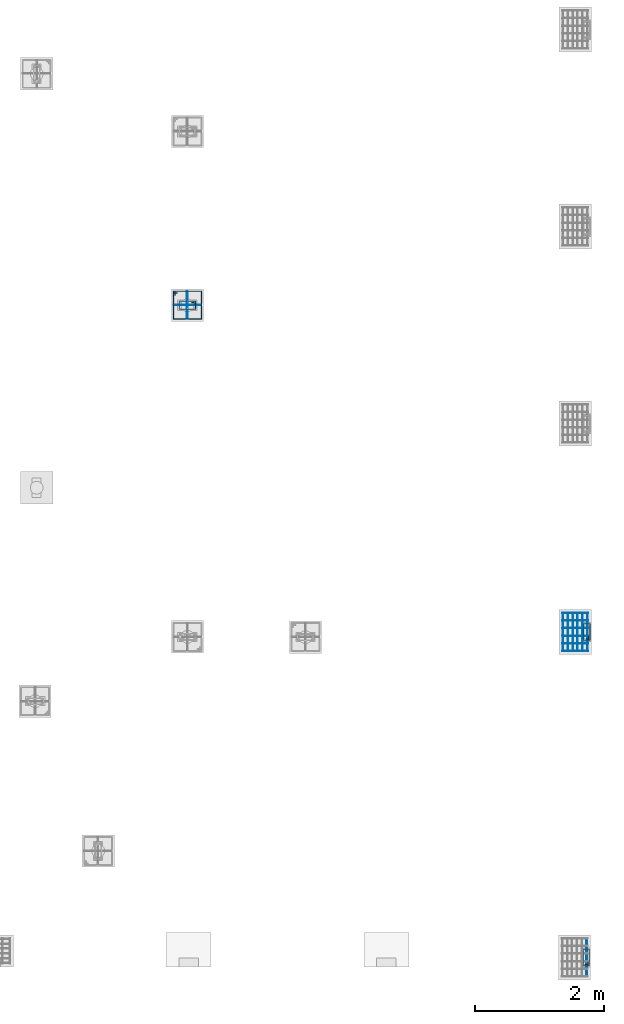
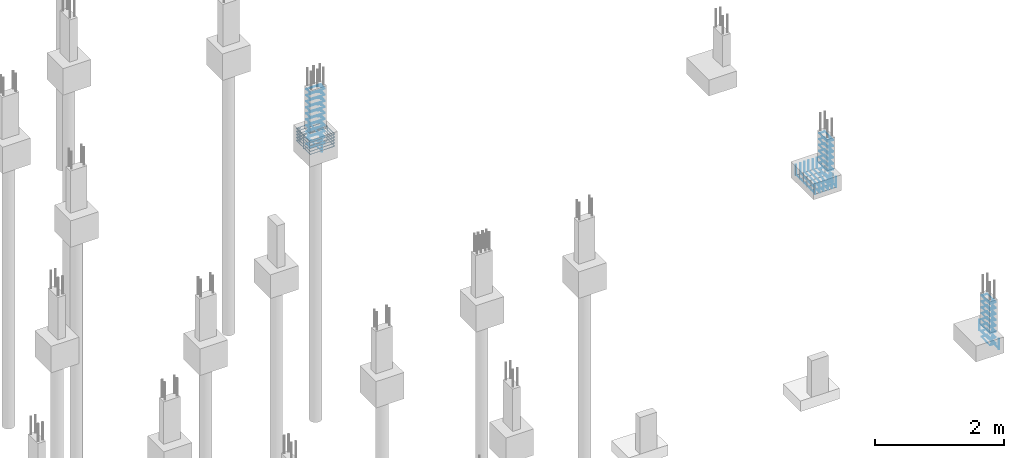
# One storey, part 95 of 119: 46 reinforcing bars.
"""IFC4 building model written with IfcOpenShell, lengths in centimetres."""

from ifc_helpers import new_model, entity, si_unit, derived_unit, frame, origin_with_axes, place, context, project, spatial, source, transform, mapped, element, save


model = new_model("IFC4")

# Units and contexts
model_context = context("Model", 3, precision=1e-05, world=origin_with_axes(), identifier="Body")
ifc_project = project(units=[si_unit("LENGTHUNIT", "METRE", prefix="CENTI"), si_unit("VOLUMEUNIT", "CUBIC_METRE"), si_unit("AREAUNIT", "SQUARE_METRE"), si_unit("POWERUNIT", "WATT"), si_unit("LUMINOUSFLUXUNIT", "LUMEN"), si_unit("ELECTRICCURRENTUNIT", "AMPERE"), si_unit("PRESSUREUNIT", "PASCAL", prefix="KILO"), si_unit("MASSUNIT", "GRAM", prefix="KILO"), si_unit("PLANEANGLEUNIT", "RADIAN"), derived_unit("VOLUMETRICFLOWRATEUNIT", [(si_unit("LENGTHUNIT", "METRE"), 3), (si_unit("TIMEUNIT", "SECOND"), -1)])], contexts=[model_context])

# Site, building, storey
site_placement = place(None, frame((-4000.0, 0.0, 0.0), z_axis=(0.0, 0.0, 1.0), x_axis=(1.0, 0.0, 0.0)))
site = spatial("IfcSite", under=ifc_project, at=site_placement, Name="PADRÃO")
building_placement = place(site_placement, frame((0.0, 0.0, -14.0)))
building = spatial("IfcBuilding", under=site, at=building_placement, Name="CRECHE PRÉ-ESCOLA TIPO 2")
storey_placement = place(building_placement, origin_with_axes())
storey = spatial("IfcBuildingStorey", under=building, at=storey_placement, Name="FUNDAÇÃO", CompositionType="ELEMENT", Elevation=-14.0)

# Reinforcing bars
shared_shape_1 = source(origin_with_axes(), model_context, "Body", "AdvancedSweptSolid", [
    entity("IfcSweptDiskSolid", entity("IfcCompositeCurve", [entity("IfcCompositeCurveSegment", "CONTINUOUS", True, entity("IfcPolyline", [entity("IfcCartesianPoint", [4.25, 21.75, 0.0]), entity("IfcCartesianPoint", [4.25, 27.75, 0.0])])), entity("IfcCompositeCurveSegment", "CONTINUOUS", True, entity("IfcPolyline", [entity("IfcCartesianPoint", [4.25, 27.75, 0.0]), entity("IfcCartesianPoint", [2.25, 27.75, 0.0])])), entity("IfcCompositeCurveSegment", "CONTINUOUS", True, entity("IfcPolyline", [entity("IfcCartesianPoint", [2.25, 27.75, 0.0]), entity("IfcCartesianPoint", [2.25, 2.25, 0.0])])), entity("IfcCompositeCurveSegment", "CONTINUOUS", True, entity("IfcPolyline", [entity("IfcCartesianPoint", [2.25, 2.25, 0.0]), entity("IfcCartesianPoint", [14.75, 2.25, 0.0])])), entity("IfcCompositeCurveSegment", "CONTINUOUS", True, entity("IfcPolyline", [entity("IfcCartesianPoint", [14.75, 2.25, 0.0]), entity("IfcCartesianPoint", [14.75, 27.75, -0.5])])), entity("IfcCompositeCurveSegment", "CONTINUOUS", True, entity("IfcPolyline", [entity("IfcCartesianPoint", [14.75, 27.75, -0.5]), entity("IfcCartesianPoint", [2.25, 27.75, -0.5])])), entity("IfcCompositeCurveSegment", "CONTINUOUS", True, entity("IfcPolyline", [entity("IfcCartesianPoint", [2.25, 27.75, -0.5]), entity("IfcCartesianPoint", [2.25, 25.75, -0.5])])), entity("IfcCompositeCurveSegment", "CONTINUOUS", True, entity("IfcPolyline", [entity("IfcCartesianPoint", [2.25, 25.75, -0.5]), entity("IfcCartesianPoint", [8.25, 25.75, -0.5])]))], False), 0.25),
])
for number, where, z_axis, x_axis, name in (
    (1, (3357.5, 1038.58, -97.75), (0.0, 0.0, 1.0), (0.0, -1.0, 0.0), "P124 - Estribo"),
    (2, (3357.5, 1038.58, -109.25), (0.0, 0.0, 1.0), (0.0, -1.0, 0.0), "P124 - Estribo"),
    (3, (3357.5, 1038.58, -86.25), (0.0, 0.0, 1.0), (0.0, -1.0, 0.0), "P124 - Estribo"),
    (4, (3357.5, 1038.58, -5.75), (0.0, 0.0, 1.0), (0.0, -1.0, 0.0), "P124 - Estribo"),
    (5, (3357.5, 1038.58, -17.25), (0.0, 0.0, 1.0), (0.0, -1.0, 0.0), "P124 - Estribo"),
    (6, (3357.5, 1038.58, -28.75), (0.0, 0.0, 1.0), (0.0, -1.0, 0.0), "P124 - Estribo"),
    (7, (3357.5, 1038.58, -40.25), (0.0, 0.0, 1.0), (0.0, -1.0, 0.0), "P124 - Estribo"),
    (8, (3357.5, 1038.58, -51.75), (0.0, 0.0, 1.0), (0.0, -1.0, 0.0), "P124 - Estribo"),
    (9, (3357.5, 1038.58, -63.25), (0.0, 0.0, 1.0), (0.0, -1.0, 0.0), "P124 - Estribo"),
    (10, (3357.5, 1038.58, -74.75), (0.0, 0.0, 1.0), (0.0, -1.0, 0.0), "P124 - Estribo"),
):
    element("IfcReinforcingBar", number, at=place(storey_placement, frame(where, z_axis=z_axis, x_axis=x_axis)), inside=storey, Name=name, BarLength=0.0, CrossSectionArea=1.9634954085e-05, NominalDiameter=0.5, PredefinedType="MAIN", context=model_context, shape_type="MappedRepresentation", body=[
        mapped(shared_shape_1, transform((0.0, 0.0, 0.0), scale=1.0)),
    ])
shared_shape_2 = source(origin_with_axes(), model_context, "Body", "AdvancedSweptSolid", [
    entity("IfcSweptDiskSolid", entity("IfcCompositeCurve", [entity("IfcCompositeCurveSegment", "CONTINUOUS", True, entity("IfcPolyline", [entity("IfcCartesianPoint", [3353.335, 1045.505, 0.0]), entity("IfcCartesianPoint", [3353.335, 1051.765, 0.0])])), entity("IfcCompositeCurveSegment", "CONTINUOUS", True, entity("IfcPolyline", [entity("IfcCartesianPoint", [3353.335, 1051.765, 0.0]), entity("IfcCartesianPoint", [3350.815, 1051.765, 0.0])])), entity("IfcCompositeCurveSegment", "CONTINUOUS", True, entity("IfcPolyline", [entity("IfcCartesianPoint", [3350.815, 1051.765, 0.0]), entity("IfcCartesianPoint", [3350.815, 1008.395, 0.0])])), entity("IfcCompositeCurveSegment", "CONTINUOUS", True, entity("IfcPolyline", [entity("IfcCartesianPoint", [3350.815, 1008.395, 0.0]), entity("IfcCartesianPoint", [3394.185, 1008.395, 0.63])])), entity("IfcCompositeCurveSegment", "CONTINUOUS", True, entity("IfcPolyline", [entity("IfcCartesianPoint", [3394.185, 1008.395, 0.63]), entity("IfcCartesianPoint", [3394.185, 1051.765, 0.63])])), entity("IfcCompositeCurveSegment", "CONTINUOUS", True, entity("IfcPolyline", [entity("IfcCartesianPoint", [3394.185, 1051.765, 0.63]), entity("IfcCartesianPoint", [3350.815, 1051.765, 0.63])])), entity("IfcCompositeCurveSegment", "CONTINUOUS", True, entity("IfcPolyline", [entity("IfcCartesianPoint", [3350.815, 1051.765, 0.63]), entity("IfcCartesianPoint", [3350.815, 1049.245, 0.63])])), entity("IfcCompositeCurveSegment", "CONTINUOUS", True, entity("IfcPolyline", [entity("IfcCartesianPoint", [3350.815, 1049.245, 0.63]), entity("IfcCartesianPoint", [3357.075, 1049.245, 0.63])]))], False), 0.315),
])
for number, where, z_axis, x_axis, name in (
    (11, (0.0, 0.0, -86.575), (0.0, 0.0, 1.0), (1.0, 0.0, 0.0), "P124 - Blocos (estribos)"),
    (12, (0.0, 0.0, -92.225), (0.0, 0.0, 1.0), (1.0, 0.0, 0.0), "P124 - Blocos (estribos)"),
    (13, (0.0, 0.0, -97.875), (0.0, 0.0, 1.0), (1.0, 0.0, 0.0), "P124 - Blocos (estribos)"),
    (14, (0.0, 0.0, -103.525), (0.0, 0.0, 1.0), (1.0, 0.0, 0.0), "P124 - Blocos (estribos)"),
    (15, (0.0, 0.0, -109.175), (0.0, 0.0, 1.0), (1.0, 0.0, 0.0), "P124 - Blocos (estribos)"),
):
    element("IfcReinforcingBar", number, at=place(storey_placement, frame(where, z_axis=z_axis, x_axis=x_axis)), inside=storey, Name=name, BarLength=0.0, CrossSectionArea=3.1172453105e-05, NominalDiameter=0.63, PredefinedType="MAIN", context=model_context, shape_type="MappedRepresentation", body=[
        mapped(shared_shape_2, transform((0.0, 0.0, 0.0), scale=1.0)),
    ])
shared_shape_3 = source(origin_with_axes(), model_context, "Body", "AdvancedSweptSolid", [
    entity("IfcSweptDiskSolid", entity("IfcCompositeCurve", [entity("IfcCompositeCurveSegment", "CONTINUOUS", True, entity("IfcPolyline", [entity("IfcCartesianPoint", [-15.12, -12.0, 0.0]), entity("IfcCartesianPoint", [-21.12, -12.0, 0.0])])), entity("IfcCompositeCurveSegment", "CONTINUOUS", True, entity("IfcPolyline", [entity("IfcCartesianPoint", [-21.12, -12.0, 0.0]), entity("IfcCartesianPoint", [-21.12, -14.0, 0.0])])), entity("IfcCompositeCurveSegment", "CONTINUOUS", True, entity("IfcPolyline", [entity("IfcCartesianPoint", [-21.12, -14.0, 0.0]), entity("IfcCartesianPoint", [21.12, -14.0, 0.0])])), entity("IfcCompositeCurveSegment", "CONTINUOUS", True, entity("IfcPolyline", [entity("IfcCartesianPoint", [21.12, -14.0, 0.0]), entity("IfcCartesianPoint", [21.12, 14.0, 0.5])])), entity("IfcCompositeCurveSegment", "CONTINUOUS", True, entity("IfcPolyline", [entity("IfcCartesianPoint", [21.12, 14.0, 0.5]), entity("IfcCartesianPoint", [-21.12, 14.0, 0.5])])), entity("IfcCompositeCurveSegment", "CONTINUOUS", True, entity("IfcPolyline", [entity("IfcCartesianPoint", [-21.12, 14.0, 0.5]), entity("IfcCartesianPoint", [-21.12, -14.0, 0.5])])), entity("IfcCompositeCurveSegment", "CONTINUOUS", True, entity("IfcPolyline", [entity("IfcCartesianPoint", [-21.12, -14.0, 0.5]), entity("IfcCartesianPoint", [-19.12, -14.0, 0.5])])), entity("IfcCompositeCurveSegment", "CONTINUOUS", True, entity("IfcPolyline", [entity("IfcCartesianPoint", [-19.12, -14.0, 0.5]), entity("IfcCartesianPoint", [-19.12, -8.0, 0.5])]))], False), 0.25),
])
reinforcing_bar_1_placement = place(storey_placement, frame((3372.5, 1030.08, -97.75), z_axis=(0.0, 1.0, 0.0), x_axis=(1.0, 0.0, 0.0)))
element("IfcReinforcingBar", 16, at=reinforcing_bar_1_placement, inside=storey, Name="P124 - Blocos (estribos)", BarLength=0.0, CrossSectionArea=1.9634954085e-05, NominalDiameter=0.5, PredefinedType="MAIN", context=model_context, shape_type="MappedRepresentation", body=[
    mapped(shared_shape_3, transform((0.0, 0.0, 0.0), scale=1.0)),
])
shared_shape_4 = source(origin_with_axes(), model_context, "Body", "AdvancedSweptSolid", [
    entity("IfcSweptDiskSolid", entity("IfcCompositeCurve", [entity("IfcCompositeCurveSegment", "CONTINUOUS", True, entity("IfcPolyline", [entity("IfcCartesianPoint", [-15.12, -12.0, 0.0]), entity("IfcCartesianPoint", [-21.12, -12.0, 0.0])])), entity("IfcCompositeCurveSegment", "CONTINUOUS", True, entity("IfcPolyline", [entity("IfcCartesianPoint", [-21.12, -12.0, 0.0]), entity("IfcCartesianPoint", [-21.12, -14.0, 0.0])])), entity("IfcCompositeCurveSegment", "CONTINUOUS", True, entity("IfcPolyline", [entity("IfcCartesianPoint", [-21.12, -14.0, 0.0]), entity("IfcCartesianPoint", [21.12, -14.0, 0.0])])), entity("IfcCompositeCurveSegment", "CONTINUOUS", True, entity("IfcPolyline", [entity("IfcCartesianPoint", [21.12, -14.0, 0.0]), entity("IfcCartesianPoint", [21.12, 14.0, 0.5])])), entity("IfcCompositeCurveSegment", "CONTINUOUS", True, entity("IfcPolyline", [entity("IfcCartesianPoint", [21.12, 14.0, 0.5]), entity("IfcCartesianPoint", [-21.12, 14.0, 0.5])])), entity("IfcCompositeCurveSegment", "CONTINUOUS", True, entity("IfcPolyline", [entity("IfcCartesianPoint", [-21.12, 14.0, 0.5]), entity("IfcCartesianPoint", [-21.12, -14.0, 0.5])])), entity("IfcCompositeCurveSegment", "CONTINUOUS", True, entity("IfcPolyline", [entity("IfcCartesianPoint", [-21.12, -14.0, 0.5]), entity("IfcCartesianPoint", [-19.12, -14.0, 0.5])])), entity("IfcCompositeCurveSegment", "CONTINUOUS", True, entity("IfcPolyline", [entity("IfcCartesianPoint", [-19.12, -14.0, 0.5]), entity("IfcCartesianPoint", [-19.12, -8.0, 0.5])]))], False), 0.25),
])
reinforcing_bar_2_placement = place(storey_placement, frame((3372.5, 1030.08, -97.75), z_axis=(-1.0, 0.0, 0.0), x_axis=(0.0, 1.0, 0.0)))
element("IfcReinforcingBar", 17, at=reinforcing_bar_2_placement, inside=storey, Name="P124 - Blocos (estribos)", BarLength=0.0, CrossSectionArea=1.9634954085e-05, NominalDiameter=0.5, PredefinedType="MAIN", context=model_context, shape_type="MappedRepresentation", body=[
    mapped(shared_shape_4, transform((0.0, 0.0, 0.0), scale=1.0)),
])
shared_shape_5 = source(origin_with_axes(), model_context, "Body", "AdvancedSweptSolid", [
    entity("IfcSweptDiskSolid", entity("IfcCompositeCurve", [entity("IfcCompositeCurveSegment", "CONTINUOUS", True, entity("IfcPolyline", [entity("IfcCartesianPoint", [4.25, 21.75, 0.0]), entity("IfcCartesianPoint", [4.25, 27.75, 0.0])])), entity("IfcCompositeCurveSegment", "CONTINUOUS", True, entity("IfcPolyline", [entity("IfcCartesianPoint", [4.25, 27.75, 0.0]), entity("IfcCartesianPoint", [2.25, 27.75, 0.0])])), entity("IfcCompositeCurveSegment", "CONTINUOUS", True, entity("IfcPolyline", [entity("IfcCartesianPoint", [2.25, 27.75, 0.0]), entity("IfcCartesianPoint", [2.25, 2.25, 0.0])])), entity("IfcCompositeCurveSegment", "CONTINUOUS", True, entity("IfcPolyline", [entity("IfcCartesianPoint", [2.25, 2.25, 0.0]), entity("IfcCartesianPoint", [11.75, 2.25, 0.0])])), entity("IfcCompositeCurveSegment", "CONTINUOUS", True, entity("IfcPolyline", [entity("IfcCartesianPoint", [11.75, 2.25, 0.0]), entity("IfcCartesianPoint", [11.75, 27.75, -0.5])])), entity("IfcCompositeCurveSegment", "CONTINUOUS", True, entity("IfcPolyline", [entity("IfcCartesianPoint", [11.75, 27.75, -0.5]), entity("IfcCartesianPoint", [2.25, 27.75, -0.5])])), entity("IfcCompositeCurveSegment", "CONTINUOUS", True, entity("IfcPolyline", [entity("IfcCartesianPoint", [2.25, 27.75, -0.5]), entity("IfcCartesianPoint", [2.25, 25.75, -0.5])])), entity("IfcCompositeCurveSegment", "CONTINUOUS", True, entity("IfcPolyline", [entity("IfcCartesianPoint", [2.25, 25.75, -0.5]), entity("IfcCartesianPoint", [8.25, 25.75, -0.5])]))], False), 0.25),
])
for number, where, z_axis, x_axis, name in (
    (18, (3999.0, 32.0, -16.6875), (0.0, 0.0, 1.0), (-1.0, 0.0, 0.0), "P168 - Estribo"),
    (19, (3999.0, 32.0, -61.1875), (0.0, 0.0, 1.0), (-1.0, 0.0, 0.0), "P168 - Estribo"),
    (20, (3999.0, 32.0, -72.3125), (0.0, 0.0, 1.0), (-1.0, 0.0, 0.0), "P168 - Estribo"),
    (21, (3999.0, 32.0, -83.4375), (0.0, 0.0, 1.0), (-1.0, 0.0, 0.0), "P168 - Estribo"),
    (22, (3999.0, 32.0, -27.8125), (0.0, 0.0, 1.0), (-1.0, 0.0, 0.0), "P168 - Estribo"),
    (23, (3999.0, 32.0, -5.5625), (0.0, 0.0, 1.0), (-1.0, 0.0, 0.0), "P168 - Estribo"),
    (24, (3999.0, 32.0, -38.9375), (0.0, 0.0, 1.0), (-1.0, 0.0, 0.0), "P168 - Estribo"),
    (25, (3999.0, 32.0, -50.0625), (0.0, 0.0, 1.0), (-1.0, 0.0, 0.0), "P168 - Estribo"),
):
    element("IfcReinforcingBar", number, at=place(storey_placement, frame(where, z_axis=z_axis, x_axis=x_axis)), inside=storey, Name=name, BarLength=0.0, CrossSectionArea=1.9634954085e-05, NominalDiameter=0.5, PredefinedType="MAIN", context=model_context, shape_type="MappedRepresentation", body=[
        mapped(shared_shape_5, transform((0.0, 0.0, 0.0), scale=1.0)),
    ])
shared_shape_6 = source(origin_with_axes(), model_context, "Body", "AdvancedSweptSolid", [
    entity("IfcSweptDiskSolid", entity("IfcCompositeCurve", [entity("IfcCompositeCurveSegment", "CONTINUOUS", True, entity("IfcPolyline", [entity("IfcCartesianPoint", [0.0, 0.0, 18.8]), entity("IfcCartesianPoint", [0.0, 0.0, 0.0])])), entity("IfcCompositeCurveSegment", "CONTINUOUS", True, entity("IfcPolyline", [entity("IfcCartesianPoint", [0.0, 0.0, 0.0]), entity("IfcCartesianPoint", [0.0, 59.2, 0.0])])), entity("IfcCompositeCurveSegment", "CONTINUOUS", True, entity("IfcPolyline", [entity("IfcCartesianPoint", [0.0, 59.2, 0.0]), entity("IfcCartesianPoint", [0.0, 59.2, 18.8])]))], False), 0.4),
])
reinforcing_bar_3_placement = place(storey_placement, frame((3992.8, 46.6, -82.8), z_axis=(0.0, 0.0, 1.0), x_axis=(-1.0, 0.0, 0.0)))
element("IfcReinforcingBar", 26, at=reinforcing_bar_3_placement, inside=storey, Name="P168 - Sapatas (inferior)", BarLength=0.0, CrossSectionArea=5.0265482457e-05, NominalDiameter=0.8, PredefinedType="MAIN", context=model_context, shape_type="MappedRepresentation", body=[
    mapped(shared_shape_6, transform((0.0, 0.0, 0.0), scale=1.0)),
])
shared_shape_7 = source(origin_with_axes(), model_context, "Body", "AdvancedSweptSolid", [
    entity("IfcSweptDiskSolid", entity("IfcCompositeCurve", [entity("IfcCompositeCurveSegment", "CONTINUOUS", True, entity("IfcPolyline", [entity("IfcCartesianPoint", [4.25, 21.75, 0.0]), entity("IfcCartesianPoint", [4.25, 27.75, 0.0])])), entity("IfcCompositeCurveSegment", "CONTINUOUS", True, entity("IfcPolyline", [entity("IfcCartesianPoint", [4.25, 27.75, 0.0]), entity("IfcCartesianPoint", [2.25, 27.75, 0.0])])), entity("IfcCompositeCurveSegment", "CONTINUOUS", True, entity("IfcPolyline", [entity("IfcCartesianPoint", [2.25, 27.75, 0.0]), entity("IfcCartesianPoint", [2.25, 2.25, 0.0])])), entity("IfcCompositeCurveSegment", "CONTINUOUS", True, entity("IfcPolyline", [entity("IfcCartesianPoint", [2.25, 2.25, 0.0]), entity("IfcCartesianPoint", [11.75, 2.25, 0.0])])), entity("IfcCompositeCurveSegment", "CONTINUOUS", True, entity("IfcPolyline", [entity("IfcCartesianPoint", [11.75, 2.25, 0.0]), entity("IfcCartesianPoint", [11.75, 27.75, -0.5])])), entity("IfcCompositeCurveSegment", "CONTINUOUS", True, entity("IfcPolyline", [entity("IfcCartesianPoint", [11.75, 27.75, -0.5]), entity("IfcCartesianPoint", [2.25, 27.75, -0.5])])), entity("IfcCompositeCurveSegment", "CONTINUOUS", True, entity("IfcPolyline", [entity("IfcCartesianPoint", [2.25, 27.75, -0.5]), entity("IfcCartesianPoint", [2.25, 25.75, -0.5])])), entity("IfcCompositeCurveSegment", "CONTINUOUS", True, entity("IfcPolyline", [entity("IfcCartesianPoint", [2.25, 25.75, -0.5]), entity("IfcCartesianPoint", [8.25, 25.75, -0.5])]))], False), 0.25),
])
for number, where, z_axis, x_axis, name in (
    (27, (4000.0, 537.51, -61.1875), (0.0, 0.0, 1.0), (-1.0, 0.0, 0.0), "P142 - Estribo"),
    (28, (4000.0, 537.51, -83.4375), (0.0, 0.0, 1.0), (-1.0, 0.0, 0.0), "P142 - Estribo"),
    (29, (4000.0, 537.51, -5.5625), (0.0, 0.0, 1.0), (-1.0, 0.0, 0.0), "P142 - Estribo"),
    (30, (4000.0, 537.51, -16.6875), (0.0, 0.0, 1.0), (-1.0, 0.0, 0.0), "P142 - Estribo"),
    (31, (4000.0, 537.51, -27.8125), (0.0, 0.0, 1.0), (-1.0, 0.0, 0.0), "P142 - Estribo"),
    (32, (4000.0, 537.51, -50.0625), (0.0, 0.0, 1.0), (-1.0, 0.0, 0.0), "P142 - Estribo"),
    (33, (4000.0, 537.51, -72.3125), (0.0, 0.0, 1.0), (-1.0, 0.0, 0.0), "P142 - Estribo"),
    (34, (4000.0, 537.51, -38.9375), (0.0, 0.0, 1.0), (-1.0, 0.0, 0.0), "P142 - Estribo"),
):
    element("IfcReinforcingBar", number, at=place(storey_placement, frame(where, z_axis=z_axis, x_axis=x_axis)), inside=storey, Name=name, BarLength=0.0, CrossSectionArea=1.9634954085e-05, NominalDiameter=0.5, PredefinedType="MAIN", context=model_context, shape_type="MappedRepresentation", body=[
        mapped(shared_shape_7, transform((0.0, 0.0, 0.0), scale=1.0)),
    ])
shared_shape_8 = source(origin_with_axes(), model_context, "Body", "AdvancedSweptSolid", [
    entity("IfcSweptDiskSolid", entity("IfcCompositeCurve", [entity("IfcCompositeCurveSegment", "CONTINUOUS", True, entity("IfcPolyline", [entity("IfcCartesianPoint", [0.0, 0.0, 19.6]), entity("IfcCartesianPoint", [0.0, 0.0, 0.0])])), entity("IfcCompositeCurveSegment", "CONTINUOUS", True, entity("IfcPolyline", [entity("IfcCartesianPoint", [0.0, 0.0, 0.0]), entity("IfcCartesianPoint", [39.2, 0.0, 0.0])])), entity("IfcCompositeCurveSegment", "CONTINUOUS", True, entity("IfcPolyline", [entity("IfcCartesianPoint", [39.2, 0.0, 0.0]), entity("IfcCartesianPoint", [39.2, 0.0, 19.6])]))], False), 0.4),
])
for number, where, z_axis, x_axis, name in (
    (35, (3994.6, 540.27, -83.6), (0.0, 0.0, 1.0), (-1.0, 0.0, 0.0), "P142 - Sapatas (inferior)"),
    (36, (3994.6, 528.43, -83.6), (0.0, 0.0, 1.0), (-1.0, 0.0, 0.0), "P142 - Sapatas (inferior)"),
    (37, (3994.6, 516.59, -83.6), (0.0, 0.0, 1.0), (-1.0, 0.0, 0.0), "P142 - Sapatas (inferior)"),
    (38, (3994.6, 504.75, -83.6), (0.0, 0.0, 1.0), (-1.0, 0.0, 0.0), "P142 - Sapatas (inferior)"),
    (39, (3994.6, 492.91, -83.6), (0.0, 0.0, 1.0), (-1.0, 0.0, 0.0), "P142 - Sapatas (inferior)"),
    (40, (3994.6, 552.11, -83.6), (0.0, 0.0, 1.0), (-1.0, 0.0, 0.0), "P142 - Sapatas (inferior)"),
):
    element("IfcReinforcingBar", number, at=place(storey_placement, frame(where, z_axis=z_axis, x_axis=x_axis)), inside=storey, Name=name, BarLength=0.0, CrossSectionArea=5.0265482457e-05, NominalDiameter=0.8, PredefinedType="MAIN", context=model_context, shape_type="MappedRepresentation", body=[
        mapped(shared_shape_8, transform((0.0, 0.0, 0.0), scale=1.0)),
    ])
shared_shape_9 = source(origin_with_axes(), model_context, "Body", "AdvancedSweptSolid", [
    entity("IfcSweptDiskSolid", entity("IfcCompositeCurve", [entity("IfcCompositeCurveSegment", "CONTINUOUS", True, entity("IfcPolyline", [entity("IfcCartesianPoint", [0.0, 0.0, 18.8]), entity("IfcCartesianPoint", [0.0, 0.0, 0.0])])), entity("IfcCompositeCurveSegment", "CONTINUOUS", True, entity("IfcPolyline", [entity("IfcCartesianPoint", [0.0, 0.0, 0.0]), entity("IfcCartesianPoint", [0.0, 59.2, 0.0])])), entity("IfcCompositeCurveSegment", "CONTINUOUS", True, entity("IfcPolyline", [entity("IfcCartesianPoint", [0.0, 59.2, 0.0]), entity("IfcCartesianPoint", [0.0, 59.2, 18.8])]))], False), 0.4),
])
for number, where, z_axis, x_axis, name in (
    (41, (3993.8, 552.11, -82.8), (0.0, 0.0, 1.0), (-1.0, 0.0, 0.0), "P142 - Sapatas (inferior)"),
    (42, (3986.28, 552.11, -82.8), (0.0, 0.0, 1.0), (-1.0, 0.0, 0.0), "P142 - Sapatas (inferior)"),
    (43, (3978.76, 552.11, -82.8), (0.0, 0.0, 1.0), (-1.0, 0.0, 0.0), "P142 - Sapatas (inferior)"),
    (44, (3971.24, 552.11, -82.8), (0.0, 0.0, 1.0), (-1.0, 0.0, 0.0), "P142 - Sapatas (inferior)"),
    (45, (3963.72, 552.11, -82.8), (0.0, 0.0, 1.0), (-1.0, 0.0, 0.0), "P142 - Sapatas (inferior)"),
    (46, (3956.2, 552.11, -82.8), (0.0, 0.0, 1.0), (-1.0, 0.0, 0.0), "P142 - Sapatas (inferior)"),
):
    element("IfcReinforcingBar", number, at=place(storey_placement, frame(where, z_axis=z_axis, x_axis=x_axis)), inside=storey, Name=name, BarLength=0.0, CrossSectionArea=5.0265482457e-05, NominalDiameter=0.8, PredefinedType="MAIN", context=model_context, shape_type="MappedRepresentation", body=[
        mapped(shared_shape_9, transform((0.0, 0.0, 0.0), scale=1.0)),
    ])

save(model, "model.ifc")
